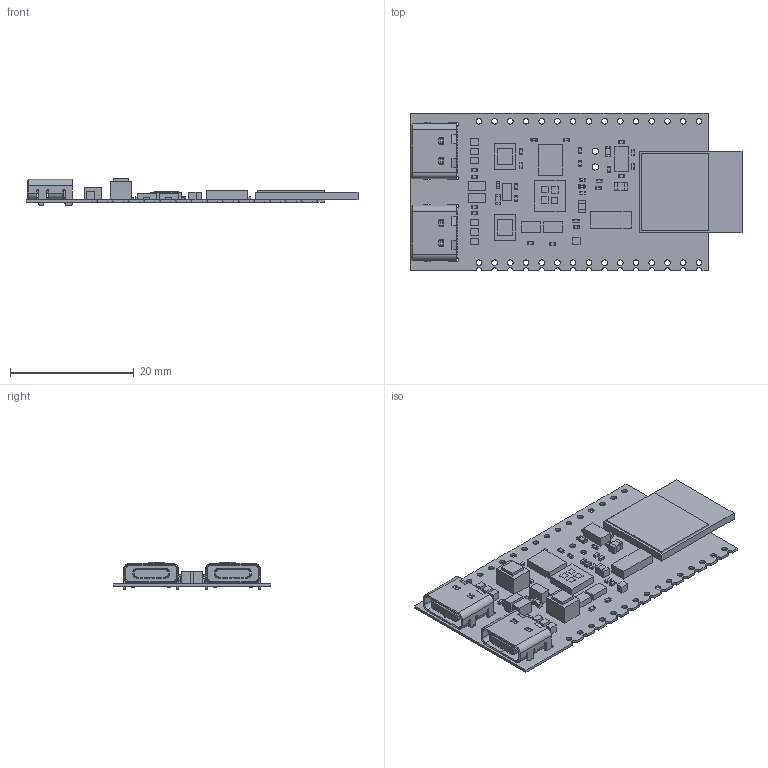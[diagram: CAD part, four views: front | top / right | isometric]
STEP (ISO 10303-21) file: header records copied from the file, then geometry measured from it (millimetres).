
FILE_DESCRIPTION(('Open CASCADE Model'),'2;1');
FILE_NAME('Open CASCADE Shape Model','2024-10-19T18:07:45',('Author'),( 'Open CASCADE'),'Open CASCADE STEP processor 6.8','Open CASCADE 6.8' ,'Unknown');
FILE_SCHEMA(('AUTOMOTIVE_DESIGN { 1 0 10303 214 1 1 1 1 }'));
Products named in the file (1): PCB
Bounding box: 53.65 x 25.4 x 4.46 mm (x, y, z)
Volume: 1444.2 mm3; surface area: 5098.4 mm2
Topology: 117 solids, 431 shells, 2761 faces, 7765 edges, 5322 vertices
Faces by surface type: plane 1630, cylinder 661, sphere 230, bspline 192, torus 32, cone 16
Full cylindrical faces by diameter (mm): 0.304 x12, 0.65 x4, 0.914 x30, 1.016 x2
Entity records: 91817 total; most frequent: CARTESIAN_POINT 19093, DIRECTION 14393, ORIENTED_EDGE 12946, EDGE_CURVE 7645, LINE 5333, VECTOR 5333, VERTEX_POINT 5322, AXIS2_PLACEMENT_3D 4530
